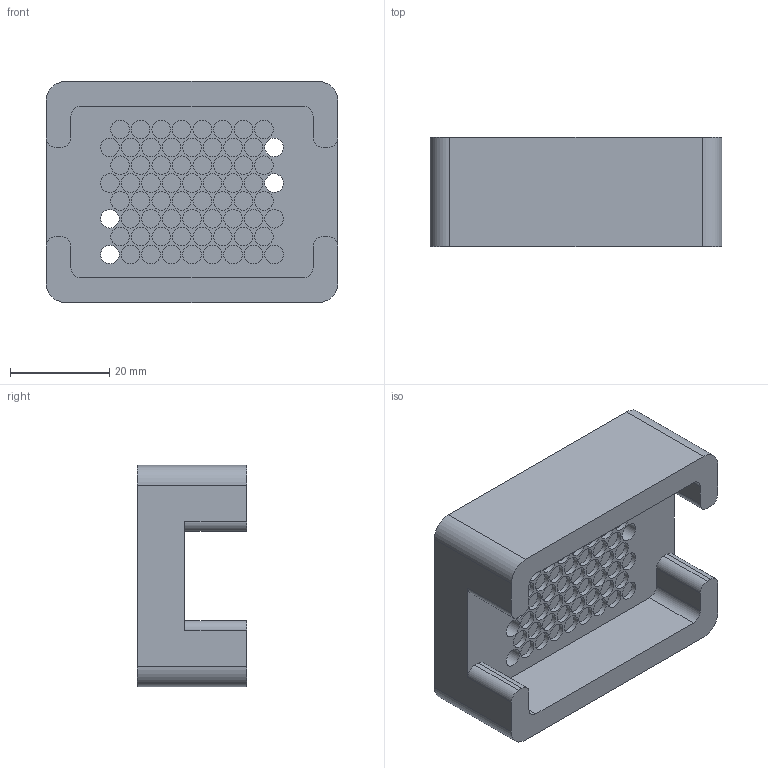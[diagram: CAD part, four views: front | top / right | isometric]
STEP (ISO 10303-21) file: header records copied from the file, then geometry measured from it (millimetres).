
FILE_DESCRIPTION (( 'STEP AP203' ), '1' );
FILE_NAME ('Press Tool - FM3 PATIM.STEP', '2024-12-02T15:53:39', ( '' ), ( '' ), 'SwSTEP 2.0', 'SolidWorks 2024', '' );
FILE_SCHEMA (( 'CONFIG_CONTROL_DESIGN' ));
Length unit declared in the file: millimetre
Products named in the file (1): Press Tool - FM3 PATIM
Bounding box: 58.8 x 22 x 44.6 mm (x, y, z)
Volume: 32958.3 mm3; surface area: 12032.7 mm2
Topology: 1 solids, 1 shells, 166 faces, 300 edges, 200 vertices
Faces by surface type: cylinder 84, plane 82
Full cylindrical faces by diameter (mm): 3.75 x68
Entity records: 3885 total; most frequent: DIRECTION 734, CARTESIAN_POINT 599, ORIENTED_EDGE 464, AXIS2_PLACEMENT_3D 335, EDGE_LOOP 306, FACE_OUTER_BOUND 234, EDGE_CURVE 232, VERTEX_POINT 200
